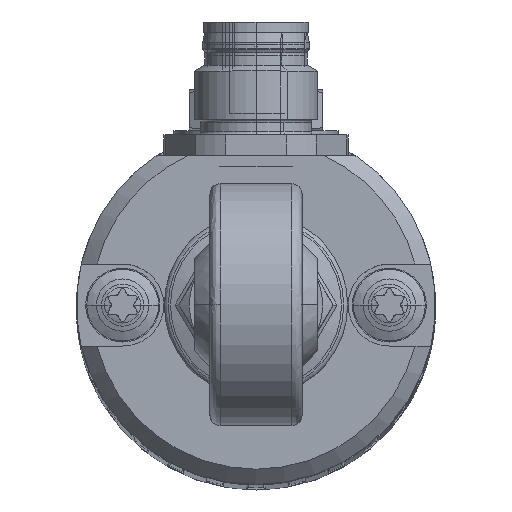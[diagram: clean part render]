
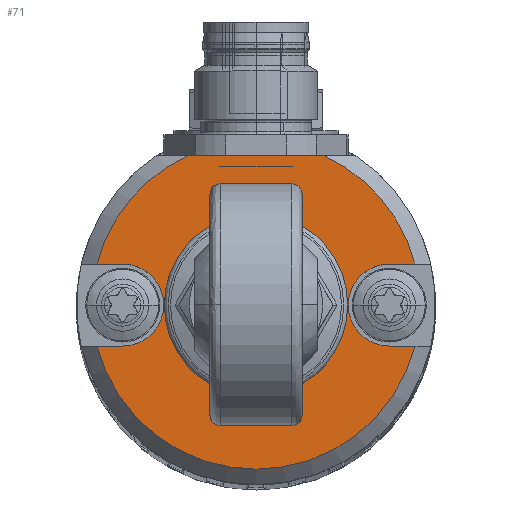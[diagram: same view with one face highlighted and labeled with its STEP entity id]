
A CAD part, top view. The second image highlights one B-rep face of the part: STEP entity #71.
In plain terms, the highlighted planar face has unit normal (0, 0, 1).
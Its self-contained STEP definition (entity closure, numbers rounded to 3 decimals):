
#51 = VERTEX_POINT ( 'NONE', #2245 ) ;
#52 = VERTEX_POINT ( 'NONE', #2244 ) ;
#53 = ORIENTED_EDGE ( 'NONE', *, *, #54, .T. ) ;
#54 = EDGE_CURVE ( 'NONE', #52, #55, #2243, .T. ) ;
#55 = VERTEX_POINT ( 'NONE', #2238 ) ;
#56 = ORIENTED_EDGE ( 'NONE', *, *, #57, .T. ) ;
#57 = EDGE_CURVE ( 'NONE', #55, #58, #2237, .T. ) ;
#58 = VERTEX_POINT ( 'NONE', #2233 ) ;
#59 = ORIENTED_EDGE ( 'NONE', *, *, #60, .T. ) ;
#60 = EDGE_CURVE ( 'NONE', #58, #61, #2232, .T. ) ;
#61 = VERTEX_POINT ( 'NONE', #2227 ) ;
#62 = ORIENTED_EDGE ( 'NONE', *, *, #63, .F. ) ;
#63 = EDGE_CURVE ( 'NONE', #64, #61, #2226, .T. ) ;
#64 = VERTEX_POINT ( 'NONE', #2282 ) ;
#65 = VERTEX_POINT ( 'NONE', #2281 ) ;
#71 = ADVANCED_FACE ( 'NONE', ( #2274, #2273 ), #2257, .F. ) ;
#72 = EDGE_LOOP ( 'NONE', ( #73, #75 ) ) ;
#73 = ORIENTED_EDGE ( 'NONE', *, *, #74, .F. ) ;
#74 = EDGE_CURVE ( 'NONE', #50474, #50416, #2321, .T. ) ;
#75 = ORIENTED_EDGE ( 'NONE', *, *, #50418, .F. ) ;
#76 = EDGE_LOOP ( 'NONE', ( #77, #53, #56, #59, #62, #120, #122, #125, #128, #131 ) ) ;
#77 = ORIENTED_EDGE ( 'NONE', *, *, #78, .T. ) ;
#78 = EDGE_CURVE ( 'NONE', #51, #52, #2313, .T. ) ;
#120 = ORIENTED_EDGE ( 'NONE', *, *, #121, .F. ) ;
#121 = EDGE_CURVE ( 'NONE', #65, #64, #2448, .T. ) ;
#122 = ORIENTED_EDGE ( 'NONE', *, *, #123, .T. ) ;
#123 = EDGE_CURVE ( 'NONE', #65, #124, #2443, .T. ) ;
#124 = VERTEX_POINT ( 'NONE', #2439 ) ;
#125 = ORIENTED_EDGE ( 'NONE', *, *, #126, .T. ) ;
#126 = EDGE_CURVE ( 'NONE', #124, #127, #2438, .T. ) ;
#127 = VERTEX_POINT ( 'NONE', #2433 ) ;
#128 = ORIENTED_EDGE ( 'NONE', *, *, #129, .F. ) ;
#129 = EDGE_CURVE ( 'NONE', #130, #127, #2432, .T. ) ;
#130 = VERTEX_POINT ( 'NONE', #2428 ) ;
#131 = ORIENTED_EDGE ( 'NONE', *, *, #132, .F. ) ;
#132 = EDGE_CURVE ( 'NONE', #51, #130, #2489, .T. ) ;
#2224 = DIRECTION ( 'NONE',  ( -1., 0., 0. ) ) ;
#2225 = CARTESIAN_POINT ( 'NONE',  ( -20., 4., 281.7 ) ) ;
#2226 = LINE ( 'NONE', #2225, #2283 ) ;
#2227 = CARTESIAN_POINT ( 'NONE',  ( -15.492, 4., 281.7 ) ) ;
#2228 = DIRECTION ( 'NONE',  ( 0., 1., 0. ) ) ;
#2229 = DIRECTION ( 'NONE',  ( 0., 0., 1. ) ) ;
#2230 = CARTESIAN_POINT ( 'NONE',  ( 0., 0., 281.7 ) ) ;
#2231 = AXIS2_PLACEMENT_3D ( 'NONE', #2230, #2229, #2228 ) ;
#2232 = CIRCLE ( 'NONE', #2231, 16. ) ;
#2233 = CARTESIAN_POINT ( 'NONE',  ( -6.545, 14.6, 281.7 ) ) ;
#2234 = DIRECTION ( 'NONE',  ( -1., 0., 0. ) ) ;
#2235 = VECTOR ( 'NONE', #2234, 1000. ) ;
#2236 = CARTESIAN_POINT ( 'NONE',  ( 0., 14.6, 281.7 ) ) ;
#2237 = LINE ( 'NONE', #2236, #2235 ) ;
#2238 = CARTESIAN_POINT ( 'NONE',  ( 6.545, 14.6, 281.7 ) ) ;
#2239 = DIRECTION ( 'NONE',  ( 0., 1., 0. ) ) ;
#2240 = DIRECTION ( 'NONE',  ( 0., 0., 1. ) ) ;
#2241 = CARTESIAN_POINT ( 'NONE',  ( 0., 0., 281.7 ) ) ;
#2242 = AXIS2_PLACEMENT_3D ( 'NONE', #2241, #2240, #2239 ) ;
#2243 = CIRCLE ( 'NONE', #2242, 16. ) ;
#2244 = CARTESIAN_POINT ( 'NONE',  ( 15.492, 4., 281.7 ) ) ;
#2245 = CARTESIAN_POINT ( 'NONE',  ( 13., 4., 281.7 ) ) ;
#2256 = AXIS2_PLACEMENT_3D ( 'NONE', #2320, #2319, #2318 ) ;
#2257 = PLANE ( 'NONE',  #2256 ) ;
#2273 = FACE_OUTER_BOUND ( 'NONE', #76, .T. ) ;
#2274 = FACE_BOUND ( 'NONE', #72, .T. ) ;
#2281 = CARTESIAN_POINT ( 'NONE',  ( -13., -4., 281.7 ) ) ;
#2282 = CARTESIAN_POINT ( 'NONE',  ( -13., 4., 281.7 ) ) ;
#2283 = VECTOR ( 'NONE', #2224, 1000. ) ;
#2310 = DIRECTION ( 'NONE',  ( 1., 0., 0. ) ) ;
#2311 = VECTOR ( 'NONE', #2310, 1000. ) ;
#2312 = CARTESIAN_POINT ( 'NONE',  ( 0., 4., 281.7 ) ) ;
#2313 = LINE ( 'NONE', #2312, #2311 ) ;
#2314 = DIRECTION ( 'NONE',  ( 0., -1., 0. ) ) ;
#2315 = DIRECTION ( 'NONE',  ( 0., 0., 1. ) ) ;
#2316 = CARTESIAN_POINT ( 'NONE',  ( 0., 0., 281.7 ) ) ;
#2317 = AXIS2_PLACEMENT_3D ( 'NONE', #2316, #2315, #2314 ) ;
#2318 = DIRECTION ( 'NONE',  ( 0., 1., 0. ) ) ;
#2319 = DIRECTION ( 'NONE',  ( 0., 0., -1. ) ) ;
#2320 = CARTESIAN_POINT ( 'NONE',  ( 0., 0., 281.7 ) ) ;
#2321 = CIRCLE ( 'NONE', #2317, 4.3 ) ;
#2427 = CARTESIAN_POINT ( 'NONE',  ( 13., 0., 281.7 ) ) ;
#2428 = CARTESIAN_POINT ( 'NONE',  ( 13., -4., 281.7 ) ) ;
#2429 = DIRECTION ( 'NONE',  ( 1., 0., 0. ) ) ;
#2430 = VECTOR ( 'NONE', #2429, 1000. ) ;
#2431 = CARTESIAN_POINT ( 'NONE',  ( 13., -4., 281.7 ) ) ;
#2432 = LINE ( 'NONE', #2431, #2430 ) ;
#2433 = CARTESIAN_POINT ( 'NONE',  ( 15.492, -4., 281.7 ) ) ;
#2434 = DIRECTION ( 'NONE',  ( 0., 1., 0. ) ) ;
#2435 = DIRECTION ( 'NONE',  ( 0., 0., 1. ) ) ;
#2436 = CARTESIAN_POINT ( 'NONE',  ( 0., 0., 281.7 ) ) ;
#2437 = AXIS2_PLACEMENT_3D ( 'NONE', #2436, #2435, #2434 ) ;
#2438 = CIRCLE ( 'NONE', #2437, 16. ) ;
#2439 = CARTESIAN_POINT ( 'NONE',  ( -15.492, -4., 281.7 ) ) ;
#2440 = DIRECTION ( 'NONE',  ( -1., 0., 0. ) ) ;
#2441 = VECTOR ( 'NONE', #2440, 1000. ) ;
#2442 = CARTESIAN_POINT ( 'NONE',  ( 0., -4., 281.7 ) ) ;
#2443 = LINE ( 'NONE', #2442, #2441 ) ;
#2444 = DIRECTION ( 'NONE',  ( 0., -1., 0. ) ) ;
#2445 = DIRECTION ( 'NONE',  ( 0., 0., 1. ) ) ;
#2446 = CARTESIAN_POINT ( 'NONE',  ( -13., 0., 281.7 ) ) ;
#2447 = AXIS2_PLACEMENT_3D ( 'NONE', #2446, #2445, #2444 ) ;
#2448 = CIRCLE ( 'NONE', #2447, 4. ) ;
#2486 = DIRECTION ( 'NONE',  ( 0., -1., 0. ) ) ;
#2487 = DIRECTION ( 'NONE',  ( 0., 0., 1. ) ) ;
#2488 = AXIS2_PLACEMENT_3D ( 'NONE', #2427, #2487, #2486 ) ;
#2489 = CIRCLE ( 'NONE', #2488, 4. ) ;
#26363 = DIRECTION ( 'NONE',  ( 0., -1., 0. ) ) ;
#26364 = DIRECTION ( 'NONE',  ( 0., 0., 1. ) ) ;
#26365 = CARTESIAN_POINT ( 'NONE',  ( 0., 0., 281.7 ) ) ;
#26366 = AXIS2_PLACEMENT_3D ( 'NONE', #26365, #26364, #26363 ) ;
#26367 = CIRCLE ( 'NONE', #26366, 4.3 ) ;
#26368 = CARTESIAN_POINT ( 'NONE',  ( 0., 4.3, 281.7 ) ) ;
#26541 = CARTESIAN_POINT ( 'NONE',  ( 0., -4.3, 281.7 ) ) ;
#50416 = VERTEX_POINT ( 'NONE', #26368 ) ;
#50418 = EDGE_CURVE ( 'NONE', #50416, #50474, #26367, .T. ) ;
#50474 = VERTEX_POINT ( 'NONE', #26541 ) ;
